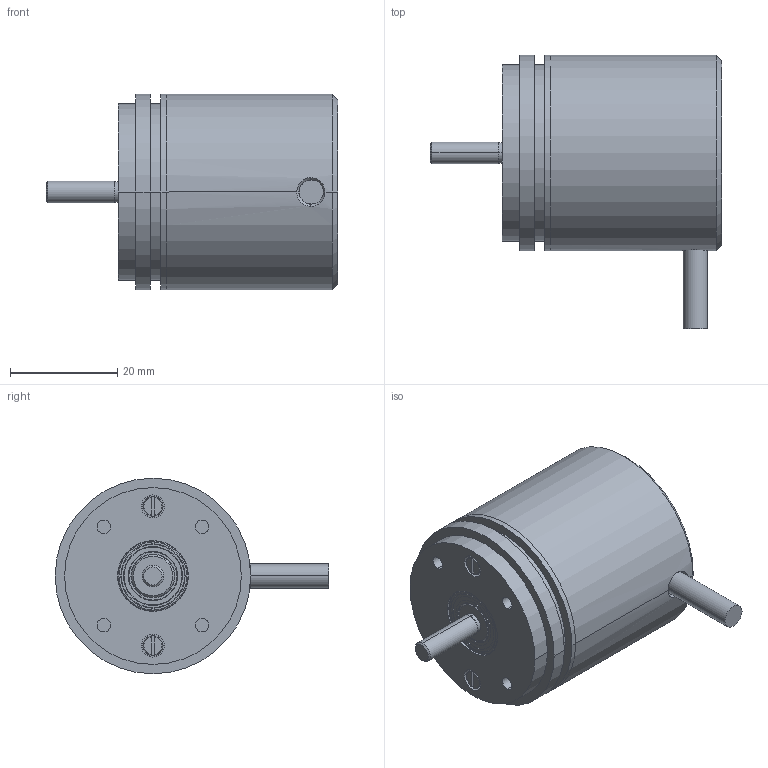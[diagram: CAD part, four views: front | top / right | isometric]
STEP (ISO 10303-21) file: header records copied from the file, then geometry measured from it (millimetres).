
FILE_DESCRIPTION (( 'STEP AP214' ), '1' );
FILE_NAME ('ËÈÐ-ÄÀ136À_ èñï. 3.STEP', '2017-05-23T09:00:26', ( '' ), ( '' ), 'SwSTEP 2.0', 'SolidWorks 2013', '' );
FILE_SCHEMA (( 'AUTOMOTIVE_DESIGN' ));
Length unit declared in the file: millimetre
Products named in the file (1): ËÈÐ-ÄÀ136À_ èñï. 3
Bounding box: 54.4 x 51.08 x 36.5 mm (x, y, z)
Volume: 20069.4 mm3; surface area: 21410.2 mm2
Topology: 22 solids, 22 shells, 1544 faces, 4433 edges, 2868 vertices
Faces by surface type: cone 493, cylinder 391, sphere 320, plane 190, torus 148, bspline 2
Entity records: 73674 total; most frequent: CARTESIAN_POINT 15675, ORIENTED_EDGE 8850, DIRECTION 8783, EDGE_CURVE 4425, AXIS2_PLACEMENT_3D 3924, VERTEX_POINT 2868, CIRCLE 2381, EDGE_LOOP 1703
